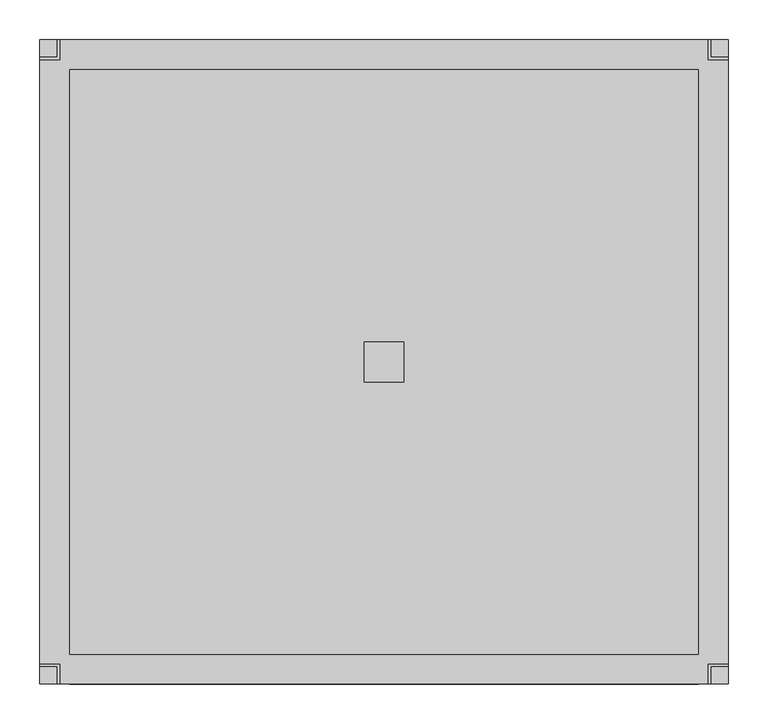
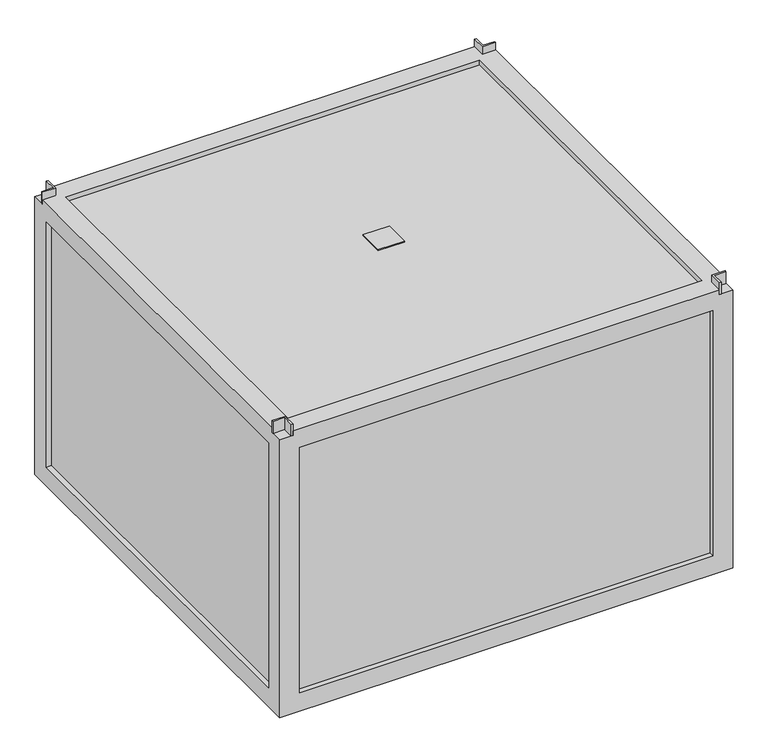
"""IFC4 building model written with IfcOpenShell, lengths in millimetres: proxy geometry, KORF_Вентилятор_UTR_WRH : UTR 60-35 WRH 35.4D (М)."""

from ifc_helpers import new_model, si_unit, frame, origin, place, context, project, spatial, polyline, outline, extrude, faceted_brep, source, transform, mapped, element, save


def mechanical_equipment_79609267(model_context):
    return source(origin(), model_context, "Body", "SolidModel", [
        extrude(outline(polyline([(407.5, -25.0), (407.5, 25.0), (457.5, 25.0), (457.5, -25.0), (407.5, -25.0)])), frame((0.0, 0.0, 285.0), z_axis=(0.0, 0.0, 1.0), x_axis=(1.0, 0.0, 0.0)), (0.0, 0.0, 1.0), 2.0),
        extrude(outline(polyline([(25.0, 380.0), (0.0, 380.0), (0.0, 383.0), (22.0, 383.0), (22.0, 405.0), (25.0, 405.0), (25.0, 380.0)])), frame((0.0, 0.0, 276.0), z_axis=(0.0, 0.0, 1.0), x_axis=(1.0, 0.0, 0.0)), (0.0, 0.0, 1.0), 24.0),
        extrude(outline(polyline([(840.0, 380.0), (840.0, 405.0), (843.0, 405.0), (843.0, 383.0), (865.0, 383.0), (865.0, 380.0), (840.0, 380.0)])), frame((0.0, 0.0, 276.0), z_axis=(0.0, 0.0, 1.0), x_axis=(1.0, 0.0, 0.0)), (0.0, 0.0, 1.0), 24.0),
        extrude(outline(polyline([(25.0, -380.0), (25.0, -405.0), (22.0, -405.0), (22.0, -383.0), (0.0, -383.0), (0.0, -380.0), (25.0, -380.0)])), frame((0.0, 0.0, 276.0), z_axis=(0.0, 0.0, 1.0), x_axis=(1.0, 0.0, 0.0)), (0.0, 0.0, 1.0), 24.0),
        extrude(outline(polyline([(840.0, -380.0), (865.0, -380.0), (865.0, -383.0), (843.0, -383.0), (843.0, -405.0), (840.0, -405.0), (840.0, -380.0)])), frame((0.0, 0.0, 276.0), z_axis=(0.0, 0.0, 1.0), x_axis=(1.0, 0.0, 0.0)), (0.0, 0.0, 1.0), 24.0),
        extrude(outline(polyline([(855.0, 395.0), (855.0, -395.0), (10.0, -395.0), (10.0, 395.0), (855.0, 395.0)])), frame((0.0, 0.0, -275.0), z_axis=(0.0, 0.0, 1.0), x_axis=(1.0, 0.0, 0.0)), (0.0, 0.0, 1.0), 550.0),
        faceted_brep([(0.0, -404.9999993, -284.9999993), (865.0, -404.9999993, -284.9999993), (864.9999993, -404.9999993, 276.0), (840.0, -404.9999993, 276.0), (840.0, -404.9999993, 285.0), (25.0, -404.9999993, 284.9999993), (25.0, -404.9999993, 276.0), (0.0, -404.9999993, 276.0), (37.5, -404.9999993, -247.4999993), (37.5, -404.9999993, 247.5), (827.4999993, -404.9999993, 247.5), (827.4999993, -404.9999993, -247.4999993), (10.000001, -394.9999993, -274.9999993), (10.000001, -394.9999993, 274.9999993), (854.9999993, -394.9999993, 274.999999), (854.999999, -394.9999993, -274.9999993), (37.5, -394.9999993, 247.5), (37.5, -394.9999993, -247.4999993), (827.4999993, -394.9999993, -247.4999993), (827.4999993, -394.9999993, 247.5), (0.0, -367.4999993, 247.4999993), (10.000001, -367.4999993, 247.4999993), (10.000001, -367.4999993, -247.4999993), (0.0, -367.4999993, -247.4999993), (0.0, 404.9999993, -284.9999993), (865.0, 405.0, -284.9999993), (827.5, -367.5, -284.9999993), (827.5, 367.5, -284.9999993), (37.5, 367.5, -284.9999993), (37.5, -367.5, -284.9999993), (10.000001, 394.9999993, -274.9999993), (854.999999, 394.999999, -274.9999993), (827.5, 367.5, -274.9999993), (827.5, -367.5, -274.9999993), (37.5, -367.5, -274.9999993), (37.5, 367.5, -274.9999993), (10.000001, 367.4999993, -247.4999993), (0.0, 367.4999993, -247.4999993), (0.0, 404.9999993, 276.0), (25.0, 404.9999993, 276.0), (25.0, 404.9999993, 284.9999993), (840.0, 404.9999993, 285.0), (840.0, 404.9999993, 276.0), (864.9999993, 404.9999993, 276.0), (37.5, 404.9999993, 247.5), (37.5, 404.9999993, -247.4999993), (827.4999993, 404.9999993, -247.4999993), (827.4999993, 404.9999993, 247.5), (10.000001, 394.9999993, 274.9999993), (854.9999993, 394.9999993, 274.999999), (37.5, 394.9999993, -247.4999993), (37.5, 394.9999993, 247.5), (827.4999993, 394.9999993, 247.5), (827.4999993, 394.9999993, -247.4999993), (10.000001, 367.4999993, 247.4999993), (0.0, 367.4999993, 247.4999993), (0.0, -380.0, 276.0), (0.0, -380.0, 284.9999993), (0.0, 380.0, 284.9999993), (0.0, 380.0, 276.0), (840.0, -380.0, 284.9999993), (864.9999993, -380.0, 284.9999993), (864.9999993, 380.0, 284.9999993), (840.0, 380.0, 284.9999993), (25.0, 380.0, 284.9999993), (25.0, -380.0, 284.9999993), (827.4999993, 367.4999993, 284.9999993), (827.4999993, -367.4999993, 284.9999993), (37.5000007, -367.4999993, 284.9999993), (37.5, 367.4999993, 284.9999993), (37.5, -367.4999993, 274.9999993), (37.5, 367.4999993, 274.9999993), (827.4999993, -367.4999993, 274.9999993), (827.4999993, 367.4999993, 274.9999993), (864.9999993, 380.0, 276.0), (864.9999993, -380.0, 276.0), (864.9999993, -367.5, -247.5), (864.9999993, -367.5, 247.5), (864.9999993, 367.5, 247.5), (864.9999993, 367.5, -247.5), (854.9999993, -367.5, 247.5), (854.9999993, -367.5, -247.5), (854.9999993, 367.5, -247.4999993), (854.9999993, 367.5, 247.5), (25.0, 380.0, 276.0), (840.0, 380.0, 276.0), (840.0, -380.0, 276.0), (25.0, -380.0, 276.0)], [[[0, 1, 2, 3, 4, 5, 6, 7], [8, 9, 10, 11]], [[12, 13, 14, 15], [16, 17, 18, 19]], [[20, 21, 22, 23]], [[0, 24, 25, 1], [26, 27, 28, 29]], [[30, 12, 15, 31], [32, 33, 34, 35]], [[23, 22, 36, 37]], [[25, 24, 38, 39, 40, 41, 42, 43], [44, 45, 46, 47]], [[48, 30, 31, 49], [50, 51, 52, 53]], [[37, 36, 54, 55]], [[24, 0, 7, 56, 57, 58, 59, 38], [20, 23, 37, 55]], [[5, 4, 60, 61, 62, 63, 41, 40, 64, 58, 57, 65], [66, 67, 68, 69]], [[35, 34, 29, 28]], [[69, 68, 70, 71]], [[16, 9, 8, 17]], [[44, 51, 50, 45]], [[13, 48, 49, 14], [72, 73, 71, 70]], [[12, 30, 48, 13], [22, 21, 54, 36]], [[21, 20, 55, 54]], [[1, 25, 43, 74, 62, 61, 75, 2], [76, 77, 78, 79]], [[14, 49, 31, 15], [80, 81, 82, 83]], [[66, 73, 72, 67]], [[67, 72, 70, 68]], [[9, 16, 19, 10]], [[51, 44, 47, 52]], [[80, 83, 78, 77]], [[73, 66, 69, 71]], [[32, 27, 26, 33]], [[33, 26, 29, 34]], [[27, 32, 35, 28]], [[17, 8, 11, 18]], [[45, 50, 53, 46]], [[76, 79, 82, 81]], [[77, 76, 81, 80]], [[79, 78, 83, 82]], [[11, 10, 19, 18]], [[47, 46, 53, 52]], [[59, 84, 39, 38]], [[42, 85, 74, 43]], [[75, 86, 3, 2]], [[87, 56, 7, 6]], [[84, 59, 58, 64]], [[39, 84, 64, 40]], [[85, 42, 41, 63]], [[74, 85, 63, 62]], [[86, 75, 61, 60]], [[3, 86, 60, 4]], [[56, 87, 65, 57]], [[87, 6, 5, 65]]]),
    ])


if __name__ == "__main__":
    model = new_model("IFC4")
    model_context = context("Model", 3, world=origin())
    ifc_project = project(units=[si_unit("LENGTHUNIT", "METRE", prefix="MILLI")], contexts=[model_context])
    site = spatial("IfcSite", under=ifc_project)
    building = spatial("IfcBuilding", under=site)
    placement = place(None, origin())
    mechanical_equipment_shape = mechanical_equipment_79609267(model_context)
    element("IfcBuildingElementProxy", 1, Name="KORF_Вентилятор_UTR_WRH : UTR 60-35 WRH 35.4D (М)", ObjectType="KORF_Вентилятор_UTR_WRH : UTR 60-35 WRH 35.4D (М)", at=placement, inside=building, context=model_context, shape_type="MappedRepresentation", body=[
        mapped(mechanical_equipment_shape, transform((0.0, 0.0, 0.0), x_axis=(1.0, 0.0, 0.0), y_axis=(0.0, 1.0, 0.0), z_axis=(0.0, 0.0, 1.0))),
    ])
    save(model, "model.ifc")
